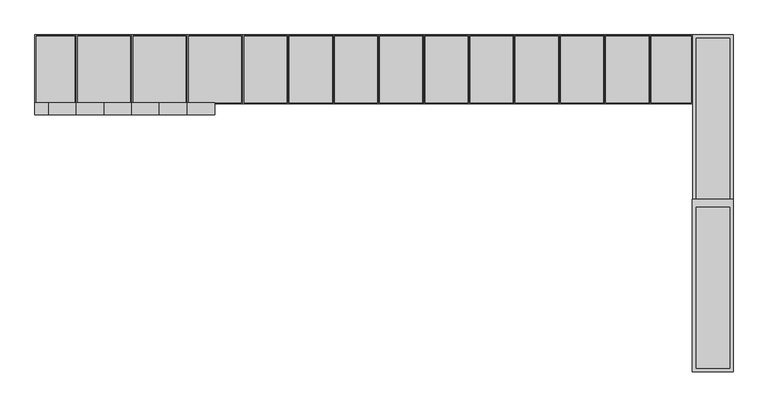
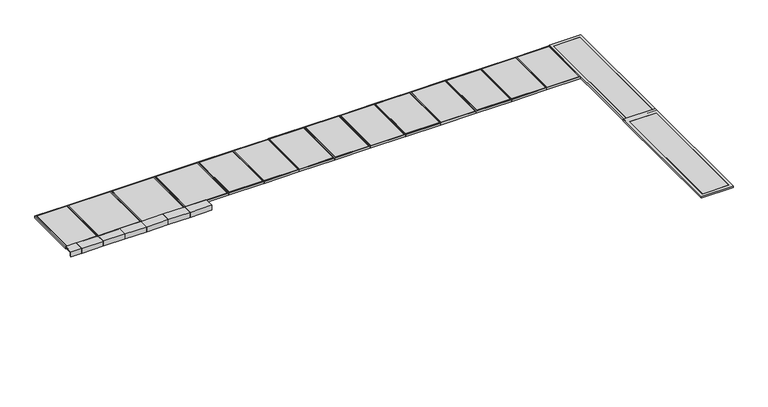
"""IFC4 building model written with IfcOpenShell, lengths in millimetres: proxy geometry, config9_Ccontainment_1 : config9_Ccontainment_1."""

import ifcopenshell
import ifcopenshell.guid

model = None  # the IFC model being written
_history = None  # IfcOwnerHistory: only IFC2X3 demands one
_inside = {}  # id of a spatial element -> (the spatial element, [elements in it])
_under = {}  # id of a project, library or spatial element -> (it, [spatial elements below it])
_declared = {}  # id of a project -> (the project, [libraries it declares])
_typed = {}  # id of a type object -> (the type object, [elements of that type])
_made_of = {}  # id of a material, layer set ... -> (it, [elements and type objects made of it])


def new_model(schema):
    """Start an empty IFC model of exactly this schema.

    Asked for "IFC4X3", IfcOpenShell would pick the latest addendum, in which some entities
    have other attributes; the version numbers below select the first issue.
    IFC2X3 requires an IfcOwnerHistory on every rooted entity: one is made here for all.
    """
    global model, _history
    if schema == "IFC4X3":
        model = ifcopenshell.file(schema_version=(4, 3, 0, 0))
    else:
        model = ifcopenshell.file(schema=schema)
    _inside.clear()
    _under.clear()
    _declared.clear()
    _typed.clear()
    _made_of.clear()
    _history = None
    if model.schema == "IFC2X3":
        org = make("IfcOrganization", Name="unknown")
        user = make(
            "IfcPersonAndOrganization",
            ThePerson=make("IfcPerson", FamilyName="unknown"),
            TheOrganization=org,
        )
        app = make(
            "IfcApplication",
            ApplicationDeveloper=org,
            Version="unknown",
            ApplicationFullName="unknown",
            ApplicationIdentifier="unknown",
        )
        _history = make(
            "IfcOwnerHistory",
            OwningUser=user,
            OwningApplication=app,
            ChangeAction="ADDED",
            CreationDate=0,
        )
    return model


def make(cls, **values):
    """One entity of the class cls with the attributes given. An attribute that is None is left unset."""
    return model.create_entity(
        cls, **{name: value for name, value in values.items() if value is not None}
    )


def rooted(cls, **values):
    """An entity with a GlobalId (a new one), such as an element, a storey or a relation."""
    return make(cls, GlobalId=ifcopenshell.guid.new(), OwnerHistory=_history, **values)


def si_unit(unit_type, name, prefix=None):
    """IfcSIUnit, for example si_unit("LENGTHUNIT", "METRE", prefix="MILLI")."""
    return make("IfcSIUnit", UnitType=unit_type, Prefix=prefix, Name=name)


def assignment(units):
    """IfcUnitAssignment: the units of a project."""
    return None if units is None else make("IfcUnitAssignment", Units=units)


def point(xyz):
    """IfcCartesianPoint."""
    return None if xyz is None else make("IfcCartesianPoint", Coordinates=xyz)


def direction(xyz):
    """IfcDirection."""
    return None if xyz is None else make("IfcDirection", DirectionRatios=xyz)


def frame(location, z_axis=None, x_axis=None):
    """IfcAxis2Placement3D, a coordinate frame: its origin and axes. An axis left out is left unset."""
    return make(
        "IfcAxis2Placement3D",
        Location=point(location),
        Axis=direction(z_axis),
        RefDirection=direction(x_axis),
    )


def origin():
    """The frame at (0, 0, 0) with its axes left unset."""
    return frame((0.0, 0.0, 0.0))


def place(relative_to, where):
    """IfcLocalPlacement: puts the frame where relative to a parent placement (None: the world)."""
    return make(
        "IfcLocalPlacement", PlacementRelTo=relative_to, RelativePlacement=where
    )


def context(
    kind, dimensions, precision=None, world=None, true_north=None, identifier=None
):
    """IfcGeometricRepresentationContext, for example the 3D "Model" context."""
    return make(
        "IfcGeometricRepresentationContext",
        ContextIdentifier=identifier,
        ContextType=kind,
        CoordinateSpaceDimension=dimensions,
        Precision=precision,
        WorldCoordinateSystem=world,
        TrueNorth=true_north,
    )


def project(units=None, contexts=None):
    """IfcProject with its units and contexts."""
    return rooted(
        "IfcProject",
        Name="project",
        RepresentationContexts=contexts,
        UnitsInContext=assignment(units),
    )


def spatial(cls, under=None, at=None, **own):
    """A site, building, storey or space (cls), placed at a placement, below another one or the project."""
    s = rooted(cls, ObjectPlacement=at, **own)
    if under is not None:
        _under.setdefault(under.id(), (under, []))[1].append(s)
    return s


def polyline(points):
    """IfcPolyline through the points."""
    return make("IfcPolyline", Points=[point(p) for p in points])


def outline(outer, holes=None, kind="AREA"):
    """IfcArbitraryClosedProfileDef: a profile drawn as a closed curve; with holes, ...WithVoids."""
    if holes is None:
        return make("IfcArbitraryClosedProfileDef", ProfileType=kind, OuterCurve=outer)
    return make(
        "IfcArbitraryProfileDefWithVoids",
        ProfileType=kind,
        OuterCurve=outer,
        InnerCurves=holes,
    )


def extrude(swept, where, along, depth):
    """IfcExtrudedAreaSolid: the profile swept, set in the frame where, extruded along a direction by depth."""
    return make(
        "IfcExtrudedAreaSolid",
        SweptArea=swept,
        Position=where,
        ExtrudedDirection=direction(along),
        Depth=depth,
    )


def shape(context_of_items, identifier, shape_type, items):
    """IfcShapeRepresentation: the items that make up one representation, for example the "Body"."""
    return make(
        "IfcShapeRepresentation",
        ContextOfItems=context_of_items,
        RepresentationIdentifier=identifier,
        RepresentationType=shape_type,
        Items=items,
    )


def source(mapping_origin, context_of_items, identifier, shape_type, items):
    """IfcRepresentationMap: a shape defined once, which mapped items show again and again."""
    return make(
        "IfcRepresentationMap",
        MappingOrigin=mapping_origin,
        MappedRepresentation=shape(context_of_items, identifier, shape_type, items),
    )


def transform(
    local_origin,
    x_axis=None,
    y_axis=None,
    z_axis=None,
    scale=None,
    scale2=None,
    scale3=None,
    uniform=True,
):
    """IfcCartesianTransformationOperator3D, or its non-uniform kind. x_axis, y_axis, z_axis: its Axis1, 2, 3."""
    if uniform:
        return make(
            "IfcCartesianTransformationOperator3D",
            Axis1=direction(x_axis),
            Axis2=direction(y_axis),
            LocalOrigin=point(local_origin),
            Scale=scale,
            Axis3=direction(z_axis),
        )
    return make(
        "IfcCartesianTransformationOperator3DnonUniform",
        Axis1=direction(x_axis),
        Axis2=direction(y_axis),
        LocalOrigin=point(local_origin),
        Scale=scale,
        Axis3=direction(z_axis),
        Scale2=scale2,
        Scale3=scale3,
    )


def mapped(mapping_source, mapping_target):
    """IfcMappedItem: shows the shape of a source again, moved by a transform."""
    return make(
        "IfcMappedItem", MappingSource=mapping_source, MappingTarget=mapping_target
    )


def made_of(thing, what):
    """Note that an element or type object is made of a material, layer set ...; save() writes the relation."""
    if what is not None:
        _made_of.setdefault(what.id(), (what, []))[1].append(thing)
    return thing


def element(
    cls,
    number,
    at=None,
    inside=None,
    cuts=None,
    type_object=None,
    material=None,
    context=None,
    identifier="Body",
    shape_type=None,
    held_by="IfcProductDefinitionShape",
    body=None,
    shapes=None,
    **own,
):
    """One element of the class cls, such as IfcWall. Its Tag is "e" and its number.

    at: its placement. inside: the storey or other place that contains it. cuts: it is an
    opening in that element (IfcRelVoidsElement). A single representation is given by context,
    identifier, shape_type and body (its items); several are given by shapes. held_by: the class
    of the entity that holds the representations. save() writes the other relations.
    """
    e = rooted(cls, Tag="e%d" % number, ObjectPlacement=at, **own)
    if body is not None:
        shapes = [shape(context, identifier, shape_type, body)]
    if shapes is not None:
        e.Representation = make(held_by, Representations=shapes)
    if inside is not None:
        _inside.setdefault(inside.id(), (inside, []))[1].append(e)
    if cuts is not None:
        rooted(
            "IfcRelVoidsElement", RelatingBuildingElement=cuts, RelatedOpeningElement=e
        )
    if type_object is not None:
        _typed.setdefault(type_object.id(), (type_object, []))[1].append(e)
    return made_of(e, material)


def aggregate(whole, parts):
    """IfcRelAggregates: a whole, such as a stair, and the parts it consists of."""
    return rooted("IfcRelAggregates", RelatingObject=whole, RelatedObjects=parts)


def save(model, path):
    """Write the relations noted so far, then the file.

    IfcRelAggregates (storeys below a building ...), IfcRelContainedInSpatialStructure (elements
    in a storey), IfcRelDefinesByType, IfcRelAssociatesMaterial and IfcRelDeclares: one each for
    every whole, place, type object, material and project.
    """
    for whole, parts in _under.values():
        aggregate(whole, parts)
    for where, things in _inside.values():
        rooted(
            "IfcRelContainedInSpatialStructure",
            RelatedElements=things,
            RelatingStructure=where,
        )
    for kind, things in _typed.values():
        rooted("IfcRelDefinesByType", RelatedObjects=things, RelatingType=kind)
    for what, things in _made_of.values():
        rooted("IfcRelAssociatesMaterial", RelatedObjects=things, RelatingMaterial=what)
    for by, libraries in _declared.values():
        rooted("IfcRelDeclares", RelatingContext=by, RelatedDefinitions=libraries)
    model.write(path)


def mechanical_equipment_16baf98c(model_context):
    return source(origin(), model_context, "Body", "SweptSolid", [
        extrude(outline(polyline([(845.1127665, 2358.0870535), (1046.4942244, 2358.0870535), (1046.4942244, 2355.0870533), (943.6645271, 2355.0870533), (943.6645271, 2331.0870573), (1043.5034084, 2331.0870573), (1043.5034084, 2334.0870559), (1037.5217814, 2334.0870559), (1037.5217814, 2337.0870533), (1046.4942244, 2337.0870533), (1046.4942244, 2328.0870533), (944.8365005, 2328.0870533), (935.0521694, 2318.3027222), (880.1127665, 2318.3027222), (880.1127665, 2247.3287058), (845.1127665, 2247.3287058), (845.1127665, 2358.0870535)])), frame((-4764.4859463, 0.0, 0.0), z_axis=(1.0, 0.0, 0.0), x_axis=(0.0, 1.0, 0.0)), (0.0, 0.0, 1.0), 221.309166),
        extrude(outline(polyline([(845.1127424, 2358.0870535), (1046.4942003, 2358.0870535), (1046.4942003, 2355.0870533), (943.664503, 2355.0870533), (943.664503, 2331.0870573), (1043.5033843, 2331.0870573), (1043.5033843, 2334.0870559), (1037.5217574, 2334.0870559), (1037.5217574, 2337.0870533), (1046.4942003, 2337.0870533), (1046.4942003, 2328.0870533), (944.8364764, 2328.0870533), (935.0521454, 2318.3027222), (880.1127424, 2318.3027222), (880.1127424, 2247.3287058), (845.1127424, 2247.3287058), (845.1127424, 2358.0870535)])), frame((-2239.4226314, 0.0, 0.0), z_axis=(1.0, 0.0, 0.0), x_axis=(0.0, 1.0, 0.0)), (0.0, 0.0, 1.0), 460.1067993),
        extrude(outline(polyline([(845.1127665, 2358.0870535), (1046.4942244, 2358.0870535), (1046.4942244, 2355.0870533), (943.6645271, 2355.0870533), (943.6645271, 2331.0870573), (1043.5034084, 2331.0870573), (1043.5034084, 2334.0870559), (1037.5217814, 2334.0870559), (1037.5217814, 2337.0870533), (1046.4942244, 2337.0870533), (1046.4942244, 2328.0870533), (944.8365005, 2328.0870533), (935.0521694, 2318.3027222), (880.1127665, 2318.3027222), (880.1127665, 2247.3287058), (845.1127665, 2247.3287058), (845.1127665, 2358.0870535)])), frame((-2700.6032024, 0.0, 0.0), z_axis=(1.0, 0.0, 0.0), x_axis=(0.0, 1.0, 0.0)), (0.0, 0.0, 1.0), 460.106218),
        extrude(outline(polyline([(845.1127665, 2358.0870535), (1046.4942244, 2358.0870535), (1046.4942244, 2355.0870533), (943.6645271, 2355.0870533), (943.6645271, 2331.0870573), (1043.5034084, 2331.0870573), (1043.5034084, 2334.0870559), (1037.5217814, 2334.0870559), (1037.5217814, 2337.0870533), (1046.4942244, 2337.0870533), (1046.4942244, 2328.0870533), (944.8365005, 2328.0870533), (935.0521694, 2318.3027222), (880.1127665, 2318.3027222), (880.1127665, 2247.3287058), (845.1127665, 2247.3287058), (845.1127665, 2358.0870535)])), frame((-3160.708839, 0.0, 0.0), z_axis=(1.0, 0.0, 0.0), x_axis=(0.0, 1.0, 0.0)), (0.0, 0.0, 1.0), 460.1056366),
        extrude(outline(polyline([(6808.9614458, -555.9894026), (6808.9614458, -3415.2803725), (6135.8199755, -3415.2803725), (6135.8199755, -555.9894026), (6808.9614458, -555.9894026)]), holes=[polyline([(6752.4393145, -688.7760013), (6194.3419848, -688.7760013), (6194.3419848, -3356.4437385), (6752.4393145, -3356.4437385), (6752.4393145, -688.7760013)])]), frame((0.0, 0.0, 2327.5938647), z_axis=(0.0, 0.0, 1.0), x_axis=(1.0, 0.0, 0.0)), (0.0, 0.0, 1.0), 42.8999977),
        extrude(outline(polyline([(6751.4393145, -689.7760013), (6751.4393145, -3355.4437385), (6195.3419848, -3355.4437385), (6195.3419848, -689.7760013), (6751.4393145, -689.7760013)])), frame((0.0, 0.0, 2327.5938647), z_axis=(0.0, 0.0, 1.0), x_axis=(1.0, 0.0, 0.0)), (0.0, 0.0, 1.0), 42.8999977),
        extrude(outline(polyline([(6808.9614458, 2169.7733351), (6808.9614458, -614.8260366), (6137.8210161, -614.8260366), (6137.8210161, 2169.7733351), (6808.9614458, 2169.7733351)]), holes=[polyline([(6752.4393145, 2111.6783346), (6194.3419848, 2111.6783346), (6194.3419848, -555.9894026), (6752.4393145, -555.9894026), (6752.4393145, 2111.6783346)])]), frame((0.0, 0.0, 2327.5938647), z_axis=(0.0, 0.0, 1.0), x_axis=(1.0, 0.0, 0.0)), (0.0, 0.0, 1.0), 42.8999977),
        extrude(outline(polyline([(6751.4393145, 2110.6783346), (6751.4393145, -554.9894026), (6195.3419848, -554.9894026), (6195.3419848, 2110.6783346), (6751.4393145, 2110.6783346)])), frame((0.0, 0.0, 2327.5938647), z_axis=(0.0, 0.0, 1.0), x_axis=(1.0, 0.0, 0.0)), (0.0, 0.0, 1.0), 42.8999977),
        extrude(outline(polyline([(6135.8199755, 2169.7733351), (6135.8199755, 1030.1127913), (5429.7255314, 1030.1127913), (5429.7255314, 2169.7733351), (6135.8199755, 2169.7733351)]), holes=[polyline([(6118.2160648, 2152.2915533), (5447.2674839, 2152.2915533), (5447.2674839, 1047.1127913), (6118.2160648, 1047.1127913), (6118.2160648, 2152.2915533)])]), frame((0.0, 0.0, 2312.1870572), z_axis=(0.0, 0.0, 1.0), x_axis=(1.0, 0.0, 0.0)), (0.0, 0.0, 1.0), 45.8999963),
        extrude(outline(polyline([(6117.2160648, 2151.2915533), (6117.2160648, 1048.1127913), (5448.2674839, 1048.1127913), (5448.2674839, 2151.2915533), (6117.2160648, 2151.2915533)])), frame((0.0, 0.0, 2312.1870572), z_axis=(0.0, 0.0, 1.0), x_axis=(1.0, 0.0, 0.0)), (0.0, 0.0, 1.0), 45.8999963),
        extrude(outline(polyline([(5427.3640476, 2169.7733351), (5427.3640476, 1030.1127913), (4679.8631626, 1030.1127913), (4679.8631626, 2169.7733351), (5427.3640476, 2169.7733351)]), holes=[polyline([(5408.7919254, 2152.2915533), (4698.4352848, 2152.2915533), (4698.4352848, 1047.1127913), (5408.7919254, 1047.1127913), (5408.7919254, 2152.2915533)])]), frame((0.0, 0.0, 2312.1870572), z_axis=(0.0, 0.0, 1.0), x_axis=(1.0, 0.0, 0.0)), (0.0, 0.0, 1.0), 45.8999963),
        extrude(outline(polyline([(5407.7919254, 2151.2915533), (5407.7919254, 1048.1127913), (4699.4352848, 1048.1127913), (4699.4352848, 2151.2915533), (5407.7919254, 2151.2915533)])), frame((0.0, 0.0, 2312.1870572), z_axis=(0.0, 0.0, 1.0), x_axis=(1.0, 0.0, 0.0)), (0.0, 0.0, 1.0), 45.8999963),
        extrude(outline(polyline([(4679.8643253, 2169.7733351), (4679.8643253, 1030.1127913), (3932.3634403, 1030.1127913), (3932.3634403, 2169.7733351), (4679.8643253, 2169.7733351)]), holes=[polyline([(4661.2922031, 2152.2915533), (3950.9355625, 2152.2915533), (3950.9355625, 1047.1127913), (4661.2922031, 1047.1127913), (4661.2922031, 2152.2915533)])]), frame((0.0, 0.0, 2312.1870572), z_axis=(0.0, 0.0, 1.0), x_axis=(1.0, 0.0, 0.0)), (0.0, 0.0, 1.0), 45.8999963),
        extrude(outline(polyline([(4660.2922031, 2151.2915533), (4660.2922031, 1048.1127913), (3951.9355625, 1048.1127913), (3951.9355625, 2151.2915533), (4660.2922031, 2151.2915533)])), frame((0.0, 0.0, 2312.1870572), z_axis=(0.0, 0.0, 1.0), x_axis=(1.0, 0.0, 0.0)), (0.0, 0.0, 1.0), 45.8999963),
        extrude(outline(polyline([(3929.8644755, 2169.7733351), (3929.8644755, 1030.1127913), (3182.3635905, 1030.1127913), (3182.3635905, 2169.7733351), (3929.8644755, 2169.7733351)]), holes=[polyline([(3911.2923533, 2152.2915533), (3200.9357127, 2152.2915533), (3200.9357127, 1047.1127913), (3911.2923533, 1047.1127913), (3911.2923533, 2152.2915533)])]), frame((0.0, 0.0, 2312.1870572), z_axis=(0.0, 0.0, 1.0), x_axis=(1.0, 0.0, 0.0)), (0.0, 0.0, 1.0), 45.8999963),
        extrude(outline(polyline([(3910.2923533, 2151.2915533), (3910.2923533, 1048.1127913), (3201.9357127, 1048.1127913), (3201.9357127, 2151.2915533), (3910.2923533, 2151.2915533)])), frame((0.0, 0.0, 2312.1870572), z_axis=(0.0, 0.0, 1.0), x_axis=(1.0, 0.0, 0.0)), (0.0, 0.0, 1.0), 45.8999963),
        extrude(outline(polyline([(3179.8644755, 2169.7733351), (3179.8644755, 1030.1127913), (2432.3635905, 1030.1127913), (2432.3635905, 2169.7733351), (3179.8644755, 2169.7733351)]), holes=[polyline([(3161.2923533, 2152.2915533), (2450.9357127, 2152.2915533), (2450.9357127, 1047.1127913), (3161.2923533, 1047.1127913), (3161.2923533, 2152.2915533)])]), frame((0.0, 0.0, 2312.1870572), z_axis=(0.0, 0.0, 1.0), x_axis=(1.0, 0.0, 0.0)), (0.0, 0.0, 1.0), 45.8999963),
        extrude(outline(polyline([(3160.2923533, 2151.2915533), (3160.2923533, 1048.1127913), (2451.9357127, 1048.1127913), (2451.9357127, 2151.2915533), (3160.2923533, 2151.2915533)])), frame((0.0, 0.0, 2312.1870572), z_axis=(0.0, 0.0, 1.0), x_axis=(1.0, 0.0, 0.0)), (0.0, 0.0, 1.0), 45.8999963),
        extrude(outline(polyline([(2429.8644755, 2169.7733351), (2429.8644755, 1030.1127913), (1682.3635905, 1030.1127913), (1682.3635905, 2169.7733351), (2429.8644755, 2169.7733351)]), holes=[polyline([(2411.2923533, 2152.2915533), (1700.9357127, 2152.2915533), (1700.9357127, 1047.1127913), (2411.2923533, 1047.1127913), (2411.2923533, 2152.2915533)])]), frame((0.0, 0.0, 2312.1870572), z_axis=(0.0, 0.0, 1.0), x_axis=(1.0, 0.0, 0.0)), (0.0, 0.0, 1.0), 45.8999963),
        extrude(outline(polyline([(2410.2923533, 2151.2915533), (2410.2923533, 1048.1127913), (1701.9357127, 1048.1127913), (1701.9357127, 2151.2915533), (2410.2923533, 2151.2915533)])), frame((0.0, 0.0, 2312.1870572), z_axis=(0.0, 0.0, 1.0), x_axis=(1.0, 0.0, 0.0)), (0.0, 0.0, 1.0), 45.8999963),
        extrude(outline(polyline([(1679.8644755, 2169.7733351), (1679.8644755, 1030.1127913), (932.3635905, 1030.1127913), (932.3635905, 2169.7733351), (1679.8644755, 2169.7733351)]), holes=[polyline([(1661.2923533, 2152.2915533), (950.9357127, 2152.2915533), (950.9357127, 1047.1127913), (1661.2923533, 1047.1127913), (1661.2923533, 2152.2915533)])]), frame((0.0, 0.0, 2312.1870572), z_axis=(0.0, 0.0, 1.0), x_axis=(1.0, 0.0, 0.0)), (0.0, 0.0, 1.0), 45.8999963),
        extrude(outline(polyline([(951.9357127, 1048.1127913), (951.9357127, 2151.2915533), (1660.2923533, 2151.2915533), (1660.2923533, 1048.1127913), (951.9357127, 1048.1127913)])), frame((0.0, 0.0, 2312.1870572), z_axis=(0.0, 0.0, 1.0), x_axis=(1.0, 0.0, 0.0)), (0.0, 0.0, 1.0), 45.8999963),
        extrude(outline(polyline([(930.3644755, 2169.7733351), (930.3644755, 1030.1127913), (182.8635905, 1030.1127913), (182.8635905, 2169.7733351), (930.3644755, 2169.7733351)]), holes=[polyline([(911.7923533, 2152.2915533), (201.4357127, 2152.2915533), (201.4357127, 1047.1127913), (911.7923533, 1047.1127913), (911.7923533, 2152.2915533)])]), frame((0.0, 0.0, 2312.1870572), z_axis=(0.0, 0.0, 1.0), x_axis=(1.0, 0.0, 0.0)), (0.0, 0.0, 1.0), 45.8999963),
        extrude(outline(polyline([(910.7923533, 2151.2915533), (910.7923533, 1048.1127913), (202.4357127, 1048.1127913), (202.4357127, 2151.2915533), (910.7923533, 2151.2915533)])), frame((0.0, 0.0, 2312.1870572), z_axis=(0.0, 0.0, 1.0), x_axis=(1.0, 0.0, 0.0)), (0.0, 0.0, 1.0), 45.8999963),
        extrude(outline(polyline([(180.8645207, 2169.7733351), (180.8645207, 1030.1127913), (-566.6363644, 1030.1127913), (-566.6363644, 2169.7733351), (180.8645207, 2169.7733351)]), holes=[polyline([(162.2923985, 2152.2915533), (-548.0642422, 2152.2915533), (-548.0642422, 1047.1127913), (162.2923985, 1047.1127913), (162.2923985, 2152.2915533)])]), frame((0.0, 0.0, 2312.1870572), z_axis=(0.0, 0.0, 1.0), x_axis=(1.0, 0.0, 0.0)), (0.0, 0.0, 1.0), 45.8999963),
        extrude(outline(polyline([(161.2923985, 2151.2915533), (161.2923985, 1048.1127913), (-547.0642422, 1048.1127913), (-547.0642422, 2151.2915533), (161.2923985, 2151.2915533)])), frame((0.0, 0.0, 2312.1870572), z_axis=(0.0, 0.0, 1.0), x_axis=(1.0, 0.0, 0.0)), (0.0, 0.0, 1.0), 45.8999963),
        extrude(outline(polyline([(-568.6350796, 2169.7733351), (-568.6350796, 1030.1127913), (-1316.1359646, 1030.1127913), (-1316.1359646, 2169.7733351), (-568.6350796, 2169.7733351)]), holes=[polyline([(-587.2072018, 2152.2915533), (-1297.5638424, 2152.2915533), (-1297.5638424, 1047.1127913), (-587.2072018, 1047.1127913), (-587.2072018, 2152.2915533)])]), frame((0.0, 0.0, 2312.1870572), z_axis=(0.0, 0.0, 1.0), x_axis=(1.0, 0.0, 0.0)), (0.0, 0.0, 1.0), 45.8999963),
        extrude(outline(polyline([(-588.2072018, 2151.2915533), (-588.2072018, 1048.1127913), (-1296.5638424, 1048.1127913), (-1296.5638424, 2151.2915533), (-588.2072018, 2151.2915533)])), frame((0.0, 0.0, 2312.1870572), z_axis=(0.0, 0.0, 1.0), x_axis=(1.0, 0.0, 0.0)), (0.0, 0.0, 1.0), 45.8999963),
        extrude(outline(polyline([(-1318.1358425, 2169.7733351), (-1318.1358425, 1030.1127913), (-2237.4225052, 1030.1127913), (-2237.4225052, 2169.7733351), (-1318.1358425, 2169.7733351)]), holes=[polyline([(-1340.9757275, 2152.2915533), (-2214.5832016, 2152.2915533), (-2214.5832016, 1047.1127913), (-1340.9757275, 1047.1127913), (-1340.9757275, 2152.2915533)])]), frame((0.0, 0.0, 2312.1870572), z_axis=(0.0, 0.0, 1.0), x_axis=(1.0, 0.0, 0.0)), (0.0, 0.0, 1.0), 45.8999963),
        extrude(outline(polyline([(-1341.9757275, 2151.2915533), (-1341.9757275, 1048.1127913), (-2213.5832016, 1048.1127913), (-2213.5832016, 2151.2915533), (-1341.9757275, 2151.2915533)])), frame((0.0, 0.0, 2312.1870572), z_axis=(0.0, 0.0, 1.0), x_axis=(1.0, 0.0, 0.0)), (0.0, 0.0, 1.0), 45.8999963),
        extrude(outline(polyline([(-2239.4228798, 2169.7733351), (-2239.4228798, 1030.1127913), (-3158.7095425, 1030.1127913), (-3158.7095425, 2169.7733351), (-2239.4228798, 2169.7733351)]), holes=[polyline([(-2262.2627647, 2152.2915533), (-3135.8702389, 2152.2915533), (-3135.8702389, 1047.1127913), (-2262.2627647, 1047.1127913), (-2262.2627647, 2152.2915533)])]), frame((0.0, 0.0, 2312.1870572), z_axis=(0.0, 0.0, 1.0), x_axis=(1.0, 0.0, 0.0)), (0.0, 0.0, 1.0), 45.8999963),
        extrude(outline(polyline([(-2263.2627647, 2151.2915533), (-2263.2627647, 1048.1127913), (-3134.8702389, 1048.1127913), (-3134.8702389, 2151.2915533), (-2263.2627647, 2151.2915533)])), frame((0.0, 0.0, 2312.1870572), z_axis=(0.0, 0.0, 1.0), x_axis=(1.0, 0.0, 0.0)), (0.0, 0.0, 1.0), 45.8999963),
        extrude(outline(polyline([(845.1127665, 2358.0870535), (1046.4942244, 2358.0870535), (1046.4942244, 2355.0870533), (943.6645271, 2355.0870533), (943.6645271, 2331.0870573), (1043.5034084, 2331.0870573), (1043.5034084, 2334.0870559), (1037.5217814, 2334.0870559), (1037.5217814, 2337.0870533), (1046.4942244, 2337.0870533), (1046.4942244, 2328.0870533), (944.8365005, 2328.0870533), (935.0521694, 2318.3027222), (880.1127665, 2318.3027222), (880.1127665, 2247.3287058), (845.1127665, 2247.3287058), (845.1127665, 2358.0870535)])), frame((-4081.995628, 0.0, 0.0), z_axis=(1.0, 0.0, 0.0), x_axis=(0.0, 1.0, 0.0)), (0.0, 0.0, 1.0), 459.4902588),
        extrude(outline(polyline([(845.1127665, 2358.0870535), (1046.4942244, 2358.0870535), (1046.4942244, 2355.0870533), (943.6645271, 2355.0870533), (943.6645271, 2331.0870573), (1043.5034084, 2331.0870573), (1043.5034084, 2334.0870559), (1037.5217814, 2334.0870559), (1037.5217814, 2337.0870533), (1046.4942244, 2337.0870533), (1046.4942244, 2328.0870533), (944.8365005, 2328.0870533), (935.0521694, 2318.3027222), (880.1127665, 2318.3027222), (880.1127665, 2247.3287058), (845.1127665, 2247.3287058), (845.1127665, 2358.0870535)])), frame((-3621.8899914, 0.0, 0.0), z_axis=(1.0, 0.0, 0.0), x_axis=(0.0, 1.0, 0.0)), (0.0, 0.0, 1.0), 460.106218),
        extrude(outline(polyline([(-3160.7090873, 2169.7733351), (-3160.7090873, 1030.1127913), (-4079.99575, 1030.1127913), (-4079.99575, 2169.7733351), (-3160.7090873, 2169.7733351)]), holes=[polyline([(-3183.5489723, 2152.2915533), (-4057.1564464, 2152.2915533), (-4057.1564464, 1047.1127913), (-3183.5489723, 1047.1127913), (-3183.5489723, 2152.2915533)])]), frame((0.0, 0.0, 2312.1870572), z_axis=(0.0, 0.0, 1.0), x_axis=(1.0, 0.0, 0.0)), (0.0, 0.0, 1.0), 45.8999963),
        extrude(outline(polyline([(-3184.5489723, 2151.2915533), (-3184.5489723, 1048.1127913), (-4056.1564464, 1048.1127913), (-4056.1564464, 2151.2915533), (-3184.5489723, 2151.2915533)])), frame((0.0, 0.0, 2312.1870572), z_axis=(0.0, 0.0, 1.0), x_axis=(1.0, 0.0, 0.0)), (0.0, 0.0, 1.0), 45.8999963),
        extrude(outline(polyline([(843.5999864, 2358.0870535), (1044.9814443, 2358.0870535), (1044.9814443, 2355.0870533), (942.151747, 2355.0870533), (942.151747, 2331.0870573), (1041.9906283, 2331.0870573), (1041.9906283, 2334.0870559), (1036.0090014, 2334.0870559), (1036.0090014, 2337.0870533), (1044.9814443, 2337.0870533), (1044.9814443, 2328.0870533), (943.3237204, 2328.0870533), (933.5393894, 2318.3027222), (878.5999864, 2318.3027222), (878.5999864, 2247.3287058), (843.5999864, 2247.3287058), (843.5999864, 2358.0870535)])), frame((-4542.1851986, 0.0, 0.0), z_axis=(1.0, 0.0, 0.0), x_axis=(0.0, 1.0, 0.0)), (0.0, 0.0, 1.0), 459.1146363),
        extrude(outline(polyline([(-4081.995628, 2169.7733351), (-4081.995628, 1030.1127913), (-4764.4859463, 1030.1127913), (-4764.4859463, 2169.7733351), (-4081.995628, 2169.7733351)]), holes=[polyline([(-4104.8355129, 2152.2915533), (-4741.6460613, 2152.2915533), (-4741.6460613, 1047.1127913), (-4104.8355129, 1047.1127913), (-4104.8355129, 2152.2915533)])]), frame((0.0, 0.0, 2312.1870572), z_axis=(0.0, 0.0, 1.0), x_axis=(1.0, 0.0, 0.0)), (0.0, 0.0, 1.0), 45.8999963),
        extrude(outline(polyline([(-4740.6460613, 2151.2915533), (-4105.8355129, 2151.2915533), (-4105.8355129, 1048.1127913), (-4740.6460613, 1048.1127913), (-4740.6460613, 2151.2915533)])), frame((0.0, 0.0, 2312.1870572), z_axis=(0.0, 0.0, 1.0), x_axis=(1.0, 0.0, 0.0)), (0.0, 0.0, 1.0), 45.8999963),
    ])


if __name__ == "__main__":
    model = new_model("IFC4")
    model_context = context("Model", 3, world=origin())
    ifc_project = project(units=[si_unit("LENGTHUNIT", "METRE", prefix="MILLI")], contexts=[model_context])
    site = spatial("IfcSite", under=ifc_project)
    building = spatial("IfcBuilding", under=site)
    placement = place(None, origin())
    mechanical_equipment_shape = mechanical_equipment_16baf98c(model_context)
    element("IfcBuildingElementProxy", 1, Name="config9_Ccontainment_1 : config9_Ccontainment_1", ObjectType="config9_Ccontainment_1 : config9_Ccontainment_1", at=placement, inside=building, context=model_context, shape_type="MappedRepresentation", body=[
        mapped(mechanical_equipment_shape, transform((0.0, 0.0, 0.0), x_axis=(1.0, 0.0, 0.0), y_axis=(0.0, 1.0, 0.0), z_axis=(0.0, 0.0, 1.0))),
    ])
    save(model, "model.ifc")
